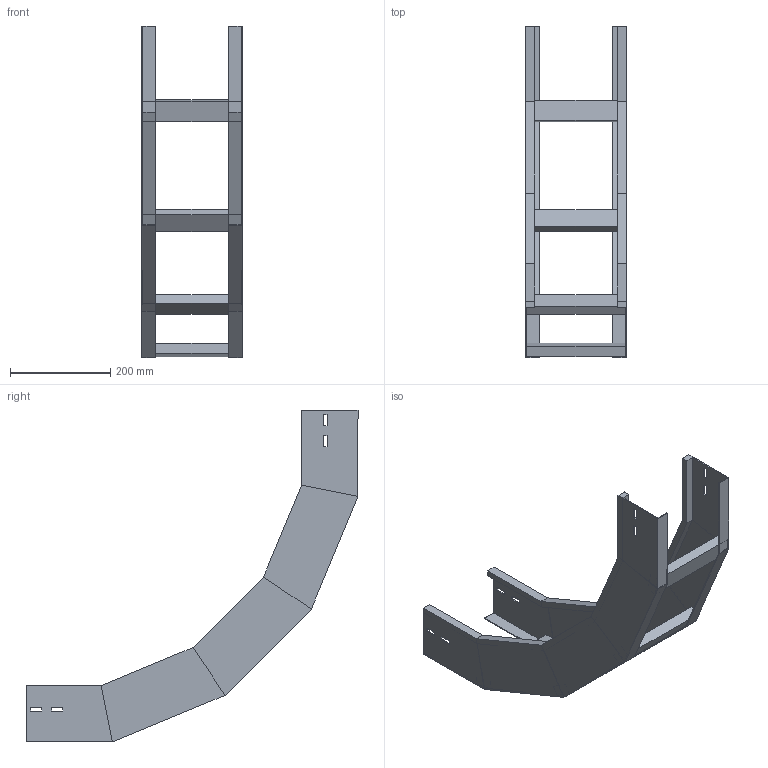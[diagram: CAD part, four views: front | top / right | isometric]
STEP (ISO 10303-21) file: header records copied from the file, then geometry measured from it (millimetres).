
FILE_DESCRIPTION (( 'STEP AP214' ), '1' );
FILE_NAME ('A2X30B5J200XX.step', '2025-03-20T10:21:55', ( '' ), ( '' ), 'SwSTEP 2.0', 'SolidWorks 2023', '' );
FILE_SCHEMA (( 'AUTOMOTIVE_DESIGN' ));
Length unit declared in the file: millimetre
Products named in the file (3): A2X30B5J200XX; LONGH.SALITA_90°_H112.5_R500; TRAVERSINO_200
Assembly tree (6 placements, depth 2):
  A2X30B5J200XX
    LONGH.SALITA_90°_H112.5_R500  x2
    TRAVERSINO_200  x4
Bounding box: 200 x 661.62 x 661.62 mm (x, y, z)
Volume: 1529708.4 mm3; surface area: 717391.7 mm2
Topology: 6 solids, 6 shells, 140 faces, 320 edges, 192 vertices
Faces by surface type: plane 140
Entity records: 1872 total; most frequent: CARTESIAN_POINT 309, ORIENTED_EDGE 296, DIRECTION 294, EDGE_CURVE 148, LINE 148, VECTOR 148, VERTEX_POINT 88, AXIS2_PLACEMENT_3D 73
